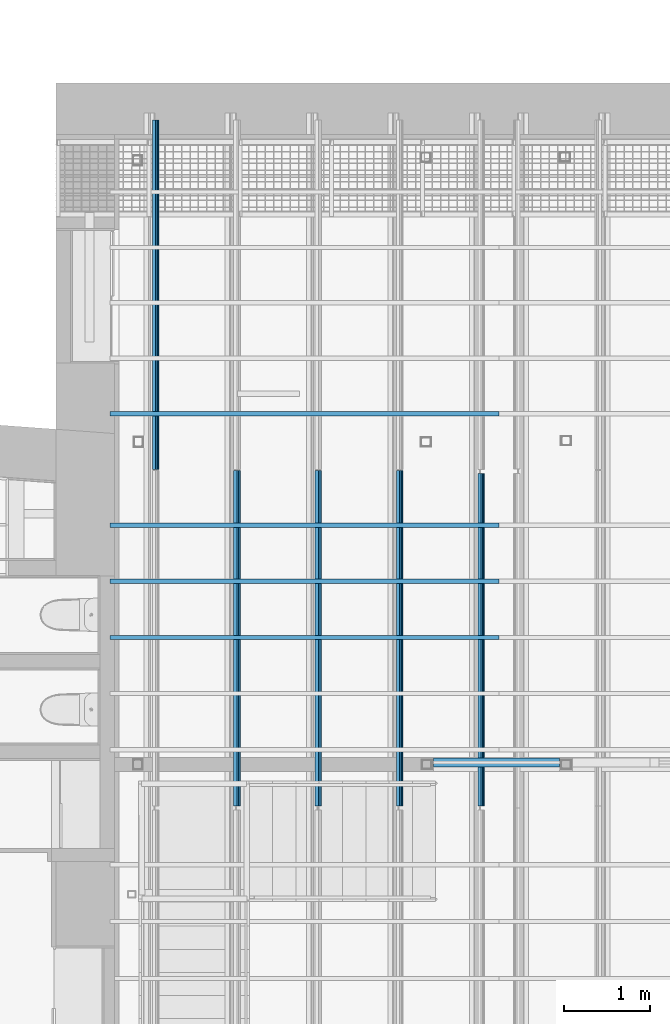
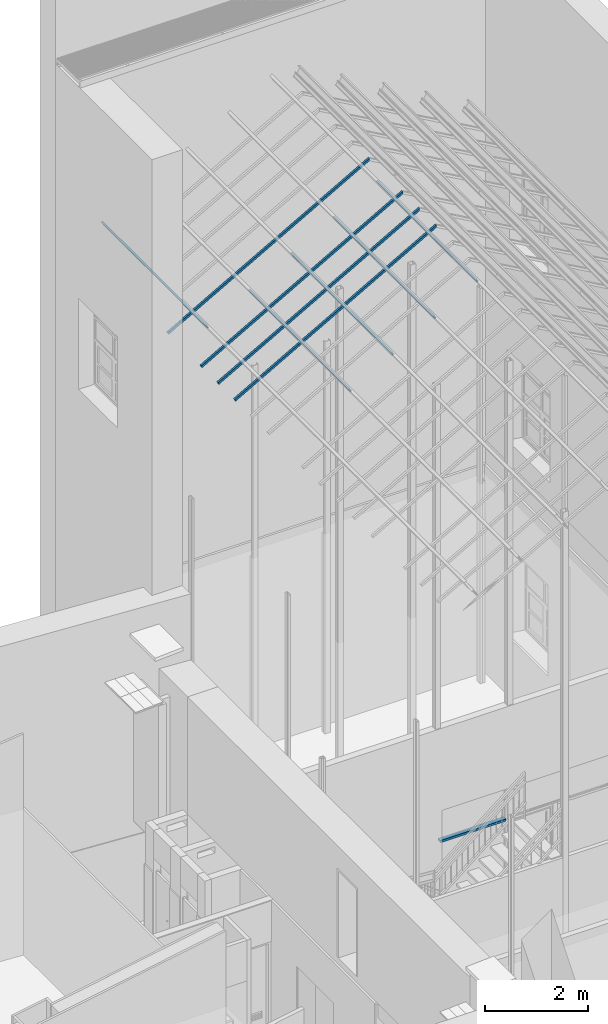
# One storey, part 21 of 75: 9 beams, 1 member, 1 element without a shape of its own.
"""IFC2X3 building model written with IfcOpenShell, lengths in metres."""

from ifc_helpers import new_model, entity, si_unit, converted_unit, derived_unit, direction, frame, frame_2d, origin, origin_2d_with_axis, place, context, subcontext, project, spatial, polyline, circle_curve, parameter, trimmed, segment, composite_curve, rectangle, outline, extrude, clip, halfspace, source, transform, mapped, material, type_object, type_shapes, element, aggregate, save


model = new_model("IFC2X3")

# Units and contexts
model_context = context("Model", 3, precision=1e-05, world=origin(), true_north=direction((6.12303176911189e-17, 1.0)))
body_context = subcontext(model_context, "Body", "Model", "MODEL_VIEW")
ifc_project = project(units=[si_unit("LENGTHUNIT", "METRE"), si_unit("AREAUNIT", "SQUARE_METRE"), si_unit("VOLUMEUNIT", "CUBIC_METRE"), converted_unit("PLANEANGLEUNIT", "DEGREE", entity("IfcRatioMeasure", 0.0174532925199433), si_unit("PLANEANGLEUNIT", "RADIAN"), dimensions=[0, 0, 0, 0, 0, 0, 0]), si_unit("MASSUNIT", "GRAM", prefix="KILO"), derived_unit("MASSDENSITYUNIT", [(si_unit("MASSUNIT", "GRAM", prefix="KILO"), 1), (si_unit("LENGTHUNIT", "METRE"), -3)]), derived_unit("MOMENTOFINERTIAUNIT", [(si_unit("LENGTHUNIT", "METRE"), 4)]), si_unit("TIMEUNIT", "SECOND"), si_unit("FREQUENCYUNIT", "HERTZ"), si_unit("THERMODYNAMICTEMPERATUREUNIT", "DEGREE_CELSIUS"), derived_unit("THERMALTRANSMITTANCEUNIT", [(si_unit("MASSUNIT", "GRAM", prefix="KILO"), 1), (si_unit("THERMODYNAMICTEMPERATUREUNIT", "KELVIN"), -1), (si_unit("TIMEUNIT", "SECOND"), -3)]), derived_unit("VOLUMETRICFLOWRATEUNIT", [(si_unit("LENGTHUNIT", "METRE"), 3), (si_unit("TIMEUNIT", "SECOND"), -1)]), si_unit("ELECTRICCURRENTUNIT", "AMPERE"), si_unit("ELECTRICVOLTAGEUNIT", "VOLT"), si_unit("POWERUNIT", "WATT"), si_unit("FORCEUNIT", "NEWTON", prefix="KILO"), si_unit("ILLUMINANCEUNIT", "LUX"), si_unit("LUMINOUSFLUXUNIT", "LUMEN"), si_unit("LUMINOUSINTENSITYUNIT", "CANDELA"), derived_unit("USERDEFINED", [(si_unit("MASSUNIT", "GRAM", prefix="KILO"), -1), (si_unit("LENGTHUNIT", "METRE"), -2), (si_unit("TIMEUNIT", "SECOND"), 3), (si_unit("LUMINOUSFLUXUNIT", "LUMEN"), 1)]), derived_unit("LINEARVELOCITYUNIT", [(si_unit("LENGTHUNIT", "METRE"), 1), (si_unit("TIMEUNIT", "SECOND"), -1)]), si_unit("PRESSUREUNIT", "PASCAL"), derived_unit("USERDEFINED", [(si_unit("LENGTHUNIT", "METRE"), -2), (si_unit("MASSUNIT", "GRAM", prefix="KILO"), 1), (si_unit("TIMEUNIT", "SECOND"), -2)]), derived_unit("LINEARFORCEUNIT", [(si_unit("MASSUNIT", "GRAM", prefix="KILO"), 1), (si_unit("LENGTHUNIT", "METRE"), 1), (si_unit("TIMEUNIT", "SECOND"), -2), (si_unit("LENGTHUNIT", "METRE"), -1)]), derived_unit("PLANARFORCEUNIT", [(si_unit("MASSUNIT", "GRAM", prefix="KILO"), 1), (si_unit("LENGTHUNIT", "METRE"), 1), (si_unit("TIMEUNIT", "SECOND"), -2), (si_unit("LENGTHUNIT", "METRE"), -2)])], contexts=[model_context])

# Site, building, storey
site_placement = place(None, origin())
site = spatial("IfcSite", under=ifc_project, at=site_placement, Name="Superficie", CompositionType="ELEMENT")
building_placement = place(site_placement, origin())
building = spatial("IfcBuilding", under=site, at=building_placement, Name="Telegestiones", CompositionType="ELEMENT")
storey_placement = place(building_placement, origin())
storey = spatial("IfcBuildingStorey", under=building, at=storey_placement, Name="Nivel 0_NPT", CompositionType="ELEMENT", Elevation=0.0)

# Beams
ifc_material_1 = material(Name="Metal - Acero - 345 MPa")
beam_type_1 = type_object("IfcBeamType", Name="IPN - Secciones en I con alas cónicas:IPN 80", PredefinedType="NOTDEFINED")
beam_1_placement = place(storey_placement, frame((10.2618424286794, 5.9448072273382, 15.6110271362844), z_axis=(0.0, 0.0, 1.0), x_axis=(0.0, 1.0, 0.0)))
element("IfcBeam", 1, at=beam_1_placement, inside=storey, type_object=beam_type_1, material=ifc_material_1, Name="IPN - Secciones en I con alas cónicas:IPN 80", ObjectType="IPN - Secciones en I con alas cónicas:IPN 80", context=body_context, shape_type="SweptSolid", body=[
    extrude(outline(composite_curve([segment(polyline([(-0.0209999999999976, -0.0400000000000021), (0.0210000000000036, -0.0400000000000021)]), True, "CONTINUOUS"), segment(polyline([(0.0210000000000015, -0.0399999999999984), (0.0210000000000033, -0.037570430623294)]), True, "CONTINUOUS"), segment(trimmed(circle_curve(frame_2d((0.0186999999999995, -0.0375704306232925), x_axis=(1.0, 0.0)), 0.00230000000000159), [parameter(0.0)], [parameter(82.0303896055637)], True, "PARAMETER"), True, "CONTINUOUS"), segment(polyline([(0.0190188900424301, -0.0352926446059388), (0.00530927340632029, -0.0333732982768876)]), True, "CONTINUOUS"), segment(trimmed(circle_curve(frame_2d((0.00584999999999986, -0.0295109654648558), x_axis=(-0.138647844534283, -0.990341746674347)), 0.0038999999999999), [parameter(277.969610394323)], [parameter(0.0)], True, "PARAMETER"), False, "CONTINUOUS"), segment(polyline([(0.00195000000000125, -0.0295109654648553), (0.0019499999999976, 0.02951096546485)]), True, "CONTINUOUS"), segment(trimmed(circle_curve(frame_2d((0.00584999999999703, 0.0295109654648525), x_axis=(-1.0, 0.0)), 0.00390000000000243), [parameter(277.969610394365)], [parameter(0.0)], True, "PARAMETER"), False, "CONTINUOUS"), segment(polyline([(0.00530927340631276, 0.0333732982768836), (0.0190188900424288, 0.0352926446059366)]), True, "CONTINUOUS"), segment(trimmed(circle_curve(frame_2d((0.0186999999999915, 0.0375704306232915), x_axis=(0.138647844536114, -0.990341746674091)), 0.00230000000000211), [parameter(0.0)], [parameter(82.0303896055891)], True, "PARAMETER"), True, "CONTINUOUS"), segment(polyline([(0.0209999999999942, 0.0375704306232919), (0.020999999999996, 0.0399999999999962)]), True, "CONTINUOUS"), segment(polyline([(0.0209999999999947, 0.040000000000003), (-0.0210000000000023, 0.0399999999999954)]), True, "CONTINUOUS"), segment(polyline([(-0.0210000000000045, 0.0399999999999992), (-0.021000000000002, 0.0375704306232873)]), True, "CONTINUOUS"), segment(trimmed(circle_curve(frame_2d((-0.0187000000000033, 0.0375704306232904), x_axis=(-1.0, 0.0)), 0.00230000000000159), [parameter(0.0)], [parameter(82.0303896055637)], True, "PARAMETER"), True, "CONTINUOUS"), segment(polyline([(-0.019018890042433, 0.0352926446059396), (-0.00530927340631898, 0.0333732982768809)]), True, "CONTINUOUS"), segment(trimmed(circle_curve(frame_2d((-0.00585000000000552, 0.0295109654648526), x_axis=(0.138647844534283, 0.990341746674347)), 0.0038999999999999), [parameter(277.969610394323)], [parameter(0.0)], True, "PARAMETER"), False, "CONTINUOUS"), segment(polyline([(-0.00195000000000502, 0.0295109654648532), (-0.00194999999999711, -0.0295109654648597)]), True, "CONTINUOUS"), segment(trimmed(circle_curve(frame_2d((-0.00585000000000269, -0.0295109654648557), x_axis=(1.0, 0.0)), 0.00390000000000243), [parameter(277.969610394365)], [parameter(0.0)], True, "PARAMETER"), False, "CONTINUOUS"), segment(polyline([(-0.00530927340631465, -0.0333732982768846), (-0.0190188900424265, -0.0352926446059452)]), True, "CONTINUOUS"), segment(trimmed(circle_curve(frame_2d((-0.0186999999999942, -0.0375704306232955), x_axis=(-0.138647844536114, 0.990341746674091)), 0.00230000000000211), [parameter(0.0)], [parameter(82.0303896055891)], True, "PARAMETER"), True, "CONTINUOUS"), segment(polyline([(-0.020999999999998, -0.037570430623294), (-0.0209999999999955, -0.0400000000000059)]), True, "CONTINUOUS")], self_intersect=False)), frame((0.0130000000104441, -0.0245925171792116, -0.0435339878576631), z_axis=(1.0, 0.0, 0.0), x_axis=(0.0, -0.870679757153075, 0.491850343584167)), (0.0, 0.0, 1.0), 3.85380000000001),
])
beam_2_placement = place(storey_placement, frame((9.31797115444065, 5.9448072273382, 15.0778306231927), z_axis=(0.0, 0.0, 1.0), x_axis=(0.0, 1.0, 0.0)))
element("IfcBeam", 2, at=beam_2_placement, inside=storey, type_object=beam_type_1, material=ifc_material_1, Name="IPN - Secciones en I con alas cónicas:IPN 80", ObjectType="IPN - Secciones en I con alas cónicas:IPN 80", context=body_context, shape_type="SweptSolid", body=[
    extrude(outline(composite_curve([segment(polyline([(-0.0209999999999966, -0.0400000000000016), (0.0210000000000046, -0.0400000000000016)]), True, "CONTINUOUS"), segment(polyline([(0.0210000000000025, -0.0399999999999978), (0.0210000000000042, -0.0375704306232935)]), True, "CONTINUOUS"), segment(trimmed(circle_curve(frame_2d((0.0187000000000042, -0.0375704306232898), x_axis=(1.0, 0.0)), 0.00229999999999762), [parameter(0.0)], [parameter(82.0303896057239)], True, "PARAMETER"), True, "CONTINUOUS"), segment(polyline([(0.0190188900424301, -0.0352926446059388), (0.00530927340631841, -0.0333732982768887)]), True, "CONTINUOUS"), segment(trimmed(circle_curve(frame_2d((0.0058500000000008, -0.0295109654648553), x_axis=(-0.138647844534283, -0.990341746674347)), 0.00389999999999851), [parameter(277.969610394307)], [parameter(0.0)], True, "PARAMETER"), False, "CONTINUOUS"), segment(polyline([(0.00195000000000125, -0.0295109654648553), (0.0019499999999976, 0.02951096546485)]), True, "CONTINUOUS"), segment(trimmed(circle_curve(frame_2d((0.00584999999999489, 0.0295109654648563), x_axis=(-1.0, 0.0)), 0.00389999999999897), [parameter(277.969610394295)], [parameter(0.0)], True, "PARAMETER"), False, "CONTINUOUS"), segment(polyline([(0.00530927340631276, 0.0333732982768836), (0.0190188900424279, 0.0352926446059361)]), True, "CONTINUOUS"), segment(trimmed(circle_curve(frame_2d((0.0186999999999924, 0.0375704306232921), x_axis=(0.13864784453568, -0.990341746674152)), 0.00230000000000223), [parameter(0.0)], [parameter(82.0303896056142)], True, "PARAMETER"), True, "CONTINUOUS"), segment(polyline([(0.0209999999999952, 0.0375704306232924), (0.0209999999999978, 0.0399999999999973)]), True, "CONTINUOUS"), segment(polyline([(0.0209999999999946, 0.040000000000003), (-0.0210000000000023, 0.0399999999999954)]), True, "CONTINUOUS"), segment(polyline([(-0.0210000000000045, 0.0399999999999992), (-0.0210000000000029, 0.0375704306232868)]), True, "CONTINUOUS"), segment(trimmed(circle_curve(frame_2d((-0.0187000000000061, 0.0375704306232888), x_axis=(-1.0, 0.0)), 0.00229999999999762), [parameter(0.0)], [parameter(82.0303896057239)], True, "PARAMETER"), True, "CONTINUOUS"), segment(polyline([(-0.019018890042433, 0.0352926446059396), (-0.00530927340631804, 0.0333732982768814)]), True, "CONTINUOUS"), segment(trimmed(circle_curve(frame_2d((-0.00585000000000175, 0.0295109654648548), x_axis=(0.138647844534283, 0.990341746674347)), 0.00389999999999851), [parameter(277.969610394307)], [parameter(0.0)], True, "PARAMETER"), False, "CONTINUOUS"), segment(polyline([(-0.00195000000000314, 0.0295109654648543), (-0.00194999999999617, -0.0295109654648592)]), True, "CONTINUOUS"), segment(trimmed(circle_curve(frame_2d((-0.00584999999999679, -0.0295109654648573), x_axis=(1.0, 0.0)), 0.00389999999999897), [parameter(277.969610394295)], [parameter(0.0)], True, "PARAMETER"), False, "CONTINUOUS"), segment(polyline([(-0.00530927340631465, -0.0333732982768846), (-0.0190188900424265, -0.0352926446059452)]), True, "CONTINUOUS"), segment(trimmed(circle_curve(frame_2d((-0.0186999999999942, -0.0375704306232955), x_axis=(-0.138647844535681, 0.990341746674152)), 0.00230000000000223), [parameter(0.0)], [parameter(82.0303896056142)], True, "PARAMETER"), True, "CONTINUOUS"), segment(polyline([(-0.020999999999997, -0.0375704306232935), (-0.0209999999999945, -0.0400000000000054)]), True, "CONTINUOUS")], self_intersect=False)), frame((0.0130000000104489, -0.0245925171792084, -0.0435339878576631), z_axis=(1.0, 0.0, 0.0), x_axis=(0.0, -0.870679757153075, 0.491850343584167)), (0.0, 0.0, 1.0), 3.889),
])
beam_3_placement = place(storey_placement, frame((8.37409988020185, 5.9448072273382, 14.5446341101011), z_axis=(0.0, 0.0, 1.0), x_axis=(0.0, 1.0, 0.0)))
element("IfcBeam", 3, at=beam_3_placement, inside=storey, type_object=beam_type_1, material=ifc_material_1, Name="IPN - Secciones en I con alas cónicas:IPN 80", ObjectType="IPN - Secciones en I con alas cónicas:IPN 80", context=body_context, shape_type="SweptSolid", body=[
    extrude(outline(composite_curve([segment(polyline([(-0.0209999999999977, -0.0399999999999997), (0.0210000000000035, -0.0399999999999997)]), True, "CONTINUOUS"), segment(polyline([(0.0210000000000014, -0.039999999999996), (0.0210000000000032, -0.0375704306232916)]), True, "CONTINUOUS"), segment(trimmed(circle_curve(frame_2d((0.0187000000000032, -0.037570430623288), x_axis=(1.0, 0.0)), 0.00229999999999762), [parameter(0.0)], [parameter(82.0303896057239)], True, "PARAMETER"), True, "CONTINUOUS"), segment(polyline([(0.019018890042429, -0.0352926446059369), (0.00530927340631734, -0.0333732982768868)]), True, "CONTINUOUS"), segment(trimmed(circle_curve(frame_2d((0.00584999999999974, -0.0295109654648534), x_axis=(-0.138647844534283, -0.990341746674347)), 0.00389999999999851), [parameter(277.969610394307)], [parameter(0.0)], True, "PARAMETER"), False, "CONTINUOUS"), segment(polyline([(0.00195000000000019, -0.0295109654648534), (0.00194999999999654, 0.0295109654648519)]), True, "CONTINUOUS"), segment(trimmed(circle_curve(frame_2d((0.00584999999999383, 0.0295109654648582), x_axis=(-1.0, 0.0)), 0.00389999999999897), [parameter(277.969610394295)], [parameter(0.0)], True, "PARAMETER"), False, "CONTINUOUS"), segment(polyline([(0.0053092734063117, 0.0333732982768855), (0.0190188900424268, 0.035292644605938)]), True, "CONTINUOUS"), segment(trimmed(circle_curve(frame_2d((0.0186999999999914, 0.0375704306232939), x_axis=(0.138647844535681, -0.990341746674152)), 0.00230000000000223), [parameter(0.0)], [parameter(82.0303896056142)], True, "PARAMETER"), True, "CONTINUOUS"), segment(polyline([(0.0209999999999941, 0.0375704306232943), (0.0209999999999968, 0.0399999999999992)]), True, "CONTINUOUS"), segment(polyline([(0.0209999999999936, 0.0400000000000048), (-0.0210000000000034, 0.0399999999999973)]), True, "CONTINUOUS"), segment(polyline([(-0.0210000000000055, 0.0400000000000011), (-0.021000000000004, 0.0375704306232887)]), True, "CONTINUOUS"), segment(trimmed(circle_curve(frame_2d((-0.0187000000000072, 0.0375704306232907), x_axis=(-1.0, 0.0)), 0.00229999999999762), [parameter(0.0)], [parameter(82.0303896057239)], True, "PARAMETER"), True, "CONTINUOUS"), segment(polyline([(-0.0190188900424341, 0.0352926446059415), (-0.0053092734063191, 0.0333732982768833)]), True, "CONTINUOUS"), segment(trimmed(circle_curve(frame_2d((-0.00585000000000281, 0.0295109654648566), x_axis=(0.138647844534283, 0.990341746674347)), 0.00389999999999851), [parameter(277.969610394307)], [parameter(0.0)], True, "PARAMETER"), False, "CONTINUOUS"), segment(polyline([(-0.0019500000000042, 0.0295109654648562), (-0.00194999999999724, -0.0295109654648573)]), True, "CONTINUOUS"), segment(trimmed(circle_curve(frame_2d((-0.00584999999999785, -0.0295109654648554), x_axis=(1.0, 0.0)), 0.00389999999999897), [parameter(277.969610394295)], [parameter(0.0)], True, "PARAMETER"), False, "CONTINUOUS"), segment(polyline([(-0.00530927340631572, -0.0333732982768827), (-0.0190188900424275, -0.0352926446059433)]), True, "CONTINUOUS"), segment(trimmed(circle_curve(frame_2d((-0.0186999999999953, -0.0375704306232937), x_axis=(-0.13864784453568, 0.990341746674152)), 0.00230000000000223), [parameter(0.0)], [parameter(82.0303896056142)], True, "PARAMETER"), True, "CONTINUOUS"), segment(polyline([(-0.0209999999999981, -0.0375704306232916), (-0.0209999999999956, -0.0400000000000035)]), True, "CONTINUOUS")], self_intersect=False)), frame((0.0130000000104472, -0.0245925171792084, -0.0435339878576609), z_axis=(1.0, 0.0, 0.0), x_axis=(0.0, -0.870679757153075, 0.491850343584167)), (0.0, 0.0, 1.0), 3.889),
])
beam_4_placement = place(storey_placement, frame((7.43022860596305, 5.9448072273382, 14.0114375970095), z_axis=(0.0, 0.0, 1.0), x_axis=(0.0, 1.0, 0.0)))
element("IfcBeam", 4, at=beam_4_placement, inside=storey, type_object=beam_type_1, material=ifc_material_1, Name="IPN - Secciones en I con alas cónicas:IPN 80", ObjectType="IPN - Secciones en I con alas cónicas:IPN 80", context=body_context, shape_type="SweptSolid", body=[
    extrude(outline(composite_curve([segment(polyline([(-0.0209999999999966, -0.0400000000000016), (0.0210000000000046, -0.0400000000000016)]), True, "CONTINUOUS"), segment(polyline([(0.0210000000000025, -0.0399999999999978), (0.0210000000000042, -0.0375704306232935)]), True, "CONTINUOUS"), segment(trimmed(circle_curve(frame_2d((0.0187000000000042, -0.0375704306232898), x_axis=(1.0, 0.0)), 0.00229999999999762), [parameter(0.0)], [parameter(82.0303896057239)], True, "PARAMETER"), True, "CONTINUOUS"), segment(polyline([(0.0190188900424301, -0.0352926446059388), (0.00530927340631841, -0.0333732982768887)]), True, "CONTINUOUS"), segment(trimmed(circle_curve(frame_2d((0.0058500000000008, -0.0295109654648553), x_axis=(-0.138647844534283, -0.990341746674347)), 0.00389999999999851), [parameter(277.969610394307)], [parameter(0.0)], True, "PARAMETER"), False, "CONTINUOUS"), segment(polyline([(0.00195000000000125, -0.0295109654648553), (0.0019499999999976, 0.02951096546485)]), True, "CONTINUOUS"), segment(trimmed(circle_curve(frame_2d((0.00584999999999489, 0.0295109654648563), x_axis=(-1.0, 0.0)), 0.00389999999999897), [parameter(277.969610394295)], [parameter(0.0)], True, "PARAMETER"), False, "CONTINUOUS"), segment(polyline([(0.00530927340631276, 0.0333732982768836), (0.0190188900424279, 0.0352926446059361)]), True, "CONTINUOUS"), segment(trimmed(circle_curve(frame_2d((0.0186999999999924, 0.0375704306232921), x_axis=(0.13864784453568, -0.990341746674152)), 0.00230000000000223), [parameter(0.0)], [parameter(82.0303896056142)], True, "PARAMETER"), True, "CONTINUOUS"), segment(polyline([(0.0209999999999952, 0.0375704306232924), (0.0209999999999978, 0.0399999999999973)]), True, "CONTINUOUS"), segment(polyline([(0.0209999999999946, 0.040000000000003), (-0.0210000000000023, 0.0399999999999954)]), True, "CONTINUOUS"), segment(polyline([(-0.0210000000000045, 0.0399999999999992), (-0.0210000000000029, 0.0375704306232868)]), True, "CONTINUOUS"), segment(trimmed(circle_curve(frame_2d((-0.0187000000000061, 0.0375704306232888), x_axis=(-1.0, 0.0)), 0.00229999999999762), [parameter(0.0)], [parameter(82.0303896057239)], True, "PARAMETER"), True, "CONTINUOUS"), segment(polyline([(-0.019018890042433, 0.0352926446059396), (-0.00530927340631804, 0.0333732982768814)]), True, "CONTINUOUS"), segment(trimmed(circle_curve(frame_2d((-0.00585000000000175, 0.0295109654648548), x_axis=(0.138647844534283, 0.990341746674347)), 0.00389999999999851), [parameter(277.969610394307)], [parameter(0.0)], True, "PARAMETER"), False, "CONTINUOUS"), segment(polyline([(-0.00195000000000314, 0.0295109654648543), (-0.00194999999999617, -0.0295109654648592)]), True, "CONTINUOUS"), segment(trimmed(circle_curve(frame_2d((-0.00584999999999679, -0.0295109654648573), x_axis=(1.0, 0.0)), 0.00389999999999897), [parameter(277.969610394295)], [parameter(0.0)], True, "PARAMETER"), False, "CONTINUOUS"), segment(polyline([(-0.00530927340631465, -0.0333732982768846), (-0.0190188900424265, -0.0352926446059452)]), True, "CONTINUOUS"), segment(trimmed(circle_curve(frame_2d((-0.0186999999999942, -0.0375704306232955), x_axis=(-0.138647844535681, 0.990341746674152)), 0.00230000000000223), [parameter(0.0)], [parameter(82.0303896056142)], True, "PARAMETER"), True, "CONTINUOUS"), segment(polyline([(-0.020999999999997, -0.0375704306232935), (-0.0209999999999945, -0.0400000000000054)]), True, "CONTINUOUS")], self_intersect=False)), frame((0.0130000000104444, -0.0245925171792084, -0.0435339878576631), z_axis=(1.0, 0.0, 0.0), x_axis=(0.0, -0.870679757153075, 0.491850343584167)), (0.0, 0.0, 1.0), 3.889),
])
beam_5_placement = place(storey_placement, frame((6.48635733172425, 9.8468072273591, 13.4782410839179), z_axis=(0.0, 0.0, 1.0), x_axis=(0.0, 1.0, 0.0)))
element("IfcBeam", 5, at=beam_5_placement, inside=storey, type_object=beam_type_1, material=ifc_material_1, Name="IPN - Secciones en I con alas cónicas:IPN 80", ObjectType="IPN - Secciones en I con alas cónicas:IPN 80", context=body_context, shape_type="SweptSolid", body=[
    extrude(outline(composite_curve([segment(polyline([(-0.0209999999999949, -0.0400000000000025), (0.0210000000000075, -0.0400000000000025)]), True, "CONTINUOUS"), segment(polyline([(0.0210000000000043, -0.0399999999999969), (0.0210000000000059, -0.0375704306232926)]), True, "CONTINUOUS"), segment(trimmed(circle_curve(frame_2d((0.0187000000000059, -0.037570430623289), x_axis=(1.0, 0.0)), 0.00229999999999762), [parameter(0.0)], [parameter(82.0303896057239)], True, "PARAMETER"), True, "CONTINUOUS"), segment(polyline([(0.0190188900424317, -0.0352926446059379), (0.0053092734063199, -0.0333732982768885)]), True, "CONTINUOUS"), segment(trimmed(circle_curve(frame_2d((0.00585000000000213, -0.029510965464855), x_axis=(-0.138647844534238, -0.990341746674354)), 0.00389999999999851), [parameter(277.969610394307)], [parameter(0.0)], True, "PARAMETER"), False, "CONTINUOUS"), segment(polyline([(0.00195000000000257, -0.0295109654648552), (0.00194999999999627, 0.0295109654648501)]), True, "CONTINUOUS"), segment(trimmed(circle_curve(frame_2d((0.00584999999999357, 0.0295109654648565), x_axis=(-1.0, 0.0)), 0.00389999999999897), [parameter(277.969610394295)], [parameter(0.0)], True, "PARAMETER"), False, "CONTINUOUS"), segment(polyline([(0.00530927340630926, 0.0333732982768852), (0.0190188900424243, 0.0352926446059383)]), True, "CONTINUOUS"), segment(trimmed(circle_curve(frame_2d((0.0186999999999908, 0.0375704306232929), x_axis=(0.138647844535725, -0.990341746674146)), 0.00230000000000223), [parameter(0.0)], [parameter(82.0303896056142)], True, "PARAMETER"), True, "CONTINUOUS"), segment(polyline([(0.0209999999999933, 0.0375704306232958), (0.020999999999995, 0.0400000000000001)]), True, "CONTINUOUS"), segment(polyline([(0.0209999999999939, 0.040000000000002), (-0.0210000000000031, 0.0399999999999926)]), True, "CONTINUOUS"), segment(polyline([(-0.0210000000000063, 0.0399999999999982), (-0.0210000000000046, 0.0375704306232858)]), True, "CONTINUOUS"), segment(trimmed(circle_curve(frame_2d((-0.0187000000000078, 0.0375704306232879), x_axis=(-1.0, 0.0)), 0.00229999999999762), [parameter(0.0)], [parameter(82.0303896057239)], True, "PARAMETER"), True, "CONTINUOUS"), segment(polyline([(-0.0190188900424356, 0.0352926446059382), (-0.00530927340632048, 0.0333732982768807)]), True, "CONTINUOUS"), segment(trimmed(circle_curve(frame_2d((-0.00585000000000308, 0.0295109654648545), x_axis=(0.138647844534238, 0.990341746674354)), 0.00389999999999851), [parameter(277.969610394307)], [parameter(0.0)], True, "PARAMETER"), False, "CONTINUOUS"), segment(polyline([(-0.0019500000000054, 0.0295109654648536), (-0.00194999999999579, -0.0295109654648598)]), True, "CONTINUOUS"), segment(trimmed(circle_curve(frame_2d((-0.00584999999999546, -0.0295109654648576), x_axis=(1.0, 0.0)), 0.00389999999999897), [parameter(277.969610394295)], [parameter(0.0)], True, "PARAMETER"), False, "CONTINUOUS"), segment(polyline([(-0.00530927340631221, -0.0333732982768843), (-0.0190188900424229, -0.0352926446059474)]), True, "CONTINUOUS"), segment(trimmed(circle_curve(frame_2d((-0.0186999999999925, -0.0375704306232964), x_axis=(-0.138647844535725, 0.990341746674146)), 0.00230000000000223), [parameter(0.0)], [parameter(82.0303896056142)], True, "PARAMETER"), True, "CONTINUOUS"), segment(polyline([(-0.0209999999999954, -0.0375704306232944), (-0.0209999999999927, -0.0400000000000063)]), True, "CONTINUOUS")], self_intersect=False)), frame((0.0130000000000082, -0.0245925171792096, -0.0435339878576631), z_axis=(1.0, 0.0, 0.0), x_axis=(0.0, -0.870679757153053, 0.491850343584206)), (0.0, 0.0, 1.0), 4.05180000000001),
])

# Curtain wall, member
curtain_wall_type = type_object("IfcCurtainWallType", PredefinedType="NOTDEFINED")
curtain_wall_placement = place(storey_placement, origin())
curtain_wall = element("IfcCurtainWall", 6, at=curtain_wall_placement, inside=storey, type_object=curtain_wall_type)
ifc_material_2 = material(Name="Aluminio")
member_type = type_object("IfcMemberType", Name="Montante rectangular:5x10", PredefinedType="MULLION", material=ifc_material_2)
shared_shape = source(origin(), body_context, "Body", "SweptSolid", [
    extrude(rectangle(XDim=0.1, YDim=0.05, at=origin_2d_with_axis()), frame((0.0, 0.0, -1.46399960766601), z_axis=(0.0, 0.0, 1.0), x_axis=(0.0, -1.0, 0.0)), (0.0, 0.0, 1.0), 1.46399960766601),
])
type_shapes(member_type, [shared_shape])
member_placement = place(curtain_wall_placement, frame((9.73181286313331, 6.45996042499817, 2.225), z_axis=(-1.0, 0.0, 0.0), x_axis=(0.0, 0.0, 1.0)))
member = element("IfcMember", 7, at=member_placement, type_object=member_type, Name="Montante rectangular:5x10", ObjectType="Montante rectangular:5x10", context=body_context, shape_type="MappedRepresentation", body=[
    mapped(shared_shape, transform((0.0, 0.0, 0.0), scale=1.0)),
])
aggregate(curtain_wall, [member])

# Beams
ifc_material_3 = material(Name="Madera - Madera de construcción")
beam_type_2 = type_object("IfcBeamType", Name="Madera:50x50mm", PredefinedType="NOTDEFINED")
beam_6_placement = place(storey_placement, frame((6.01059937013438, 8.5612738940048, 13.2094835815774), z_axis=(-0.491850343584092, 0.0, 0.870679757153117), x_axis=(0.870679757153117, 0.0, 0.491850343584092)))
element("IfcBeam", 8, at=beam_6_placement, inside=storey, type_object=beam_type_2, material=ifc_material_3, Name="Madera:50x50mm", ObjectType="Madera:50x50mm", context=body_context, shape_type="SweptSolid", body=[
    clip(extrude(rectangle(XDim=0.0500000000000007, YDim=0.0500000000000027, at=frame_2d((9.41954847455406e-16, -5.41233724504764e-16), x_axis=(1.0, 0.0))), frame((-0.0851437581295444, 0.0, -0.115), z_axis=(1.0, 0.0, 0.0), x_axis=(0.0, 0.0, -1.0)), (0.0, 0.0, 1.0), 5.18302027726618), halfspace(frame((5.06963132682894, 0.0, -0.140000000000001), z_axis=(0.870679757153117, 0.0, -0.491850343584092), x_axis=(0.0, -1.0, 0.0)), False)),
])
beam_7_placement = place(storey_placement, frame((6.01059937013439, 9.21244056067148, 13.2094835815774), z_axis=(-0.491850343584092, 0.0, 0.870679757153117), x_axis=(0.870679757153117, 0.0, 0.491850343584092)))
element("IfcBeam", 9, at=beam_7_placement, inside=storey, type_object=beam_type_2, material=ifc_material_3, Name="Madera:50x50mm", ObjectType="Madera:50x50mm", context=body_context, shape_type="SweptSolid", body=[
    clip(extrude(rectangle(XDim=0.0500000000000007, YDim=0.0500000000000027, at=frame_2d((-9.43689570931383e-16, 5.41233724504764e-16), x_axis=(1.0, 0.0))), frame((-0.0851437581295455, 0.0, -0.115000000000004), z_axis=(1.0, 0.0, 0.0), x_axis=(0.0, 0.0, -1.0)), (0.0, 0.0, 1.0), 5.18302027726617), halfspace(frame((5.06963132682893, 0.0, -0.140000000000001), z_axis=(0.870679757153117, 0.0, -0.491850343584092), x_axis=(0.0, -1.0, 0.0)), False)),
])
beam_8_placement = place(storey_placement, frame((6.01059937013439, 7.91010722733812, 13.2094835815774), z_axis=(-0.491850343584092, 0.0, 0.870679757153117), x_axis=(0.870679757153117, 0.0, 0.491850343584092)))
element("IfcBeam", 10, at=beam_8_placement, inside=storey, type_object=beam_type_2, material=ifc_material_3, Name="Madera:50x50mm", ObjectType="Madera:50x50mm", context=body_context, shape_type="SweptSolid", body=[
    clip(extrude(rectangle(XDim=0.0500000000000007, YDim=0.0500000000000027, at=frame_2d((9.41954847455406e-16, 5.41233724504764e-16), x_axis=(1.0, 0.0))), frame((-0.0851437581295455, 0.0, -0.115000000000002), z_axis=(1.0, 0.0, 0.0), x_axis=(0.0, 0.0, -1.0)), (0.0, 0.0, 1.0), 5.18302027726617), halfspace(frame((5.06963132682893, 0.0, -0.140000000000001), z_axis=(0.870679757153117, 0.0, -0.491850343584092), x_axis=(0.0, -1.0, 0.0)), False)),
])
beam_9_placement = place(storey_placement, frame((6.01059937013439, 10.5061072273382, 13.2094835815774), z_axis=(-0.491850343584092, 0.0, 0.870679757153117), x_axis=(0.870679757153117, 0.0, 0.491850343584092)))
element("IfcBeam", 11, at=beam_9_placement, inside=storey, type_object=beam_type_2, material=ifc_material_3, Name="Madera:50x50mm", ObjectType="Madera:50x50mm", context=body_context, shape_type="SweptSolid", body=[
    clip(extrude(rectangle(XDim=0.0500000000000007, YDim=0.0500000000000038, at=frame_2d((2.67147415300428e-16, 1.08246744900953e-15), x_axis=(1.0, 0.0))), frame((-0.0851437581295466, 0.0, -0.115), z_axis=(1.0, 0.0, 0.0), x_axis=(0.0, 0.0, -1.0)), (0.0, 0.0, 1.0), 5.18302027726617), halfspace(frame((5.06963132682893, 0.0, -0.139999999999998), z_axis=(0.870679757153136, 0.0, -0.491850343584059), x_axis=(0.0, -1.0, 0.0)), False)),
])

save(model, "model.ifc")
